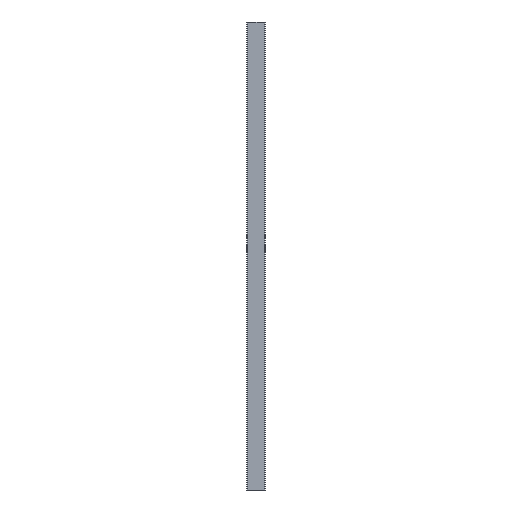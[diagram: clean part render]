
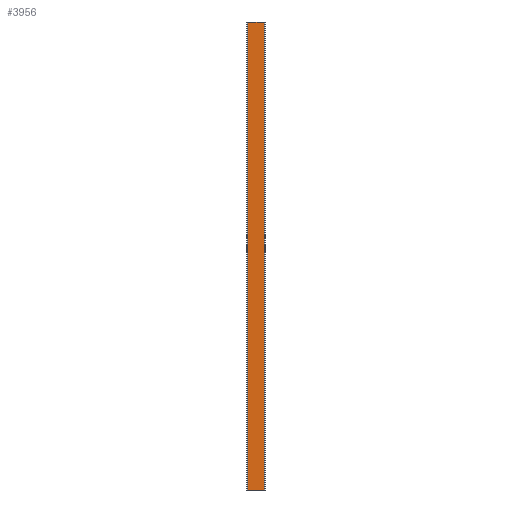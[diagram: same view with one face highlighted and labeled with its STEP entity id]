
A CAD part, left-side view. The second image highlights one B-rep face of the part: STEP entity #3956.
In plain terms, the highlighted planar face has unit normal (-1, 0, 0).
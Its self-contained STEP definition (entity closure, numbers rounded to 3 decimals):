
#4 = DIRECTION ( 'NONE',  ( 0., 1., 0. ) ) ;
#520 = PLANE ( 'NONE',  #7787 ) ;
#1049 = VERTEX_POINT ( 'NONE', #11712 ) ;
#1102 = FACE_OUTER_BOUND ( 'NONE', #10832, .T. ) ;
#1563 = DIRECTION ( 'NONE',  ( 0., 1., 0. ) ) ;
#1578 = CARTESIAN_POINT ( 'NONE',  ( -20., 18., -1000. ) ) ;
#2574 = VERTEX_POINT ( 'NONE', #1578 ) ;
#3059 = ORIENTED_EDGE ( 'NONE', *, *, #9237, .F. ) ;
#3199 = EDGE_CURVE ( 'NONE', #1049, #8438, #4461, .T. ) ;
#3956 = ADVANCED_FACE ( 'NONE', ( #1102 ), #520, .T. ) ;
#4404 = VERTEX_POINT ( 'NONE', #8200 ) ;
#4461 = LINE ( 'NONE', #12270, #12288 ) ;
#4778 = ORIENTED_EDGE ( 'NONE', *, *, #10004, .T. ) ;
#5546 = DIRECTION ( 'NONE',  ( 0., 1., 0. ) ) ;
#5732 = VECTOR ( 'NONE', #12415, 1000. ) ;
#5871 = ORIENTED_EDGE ( 'NONE', *, *, #3199, .T. ) ;
#7164 = LINE ( 'NONE', #12199, #12291 ) ;
#7703 = DIRECTION ( 'NONE',  ( -1., 0., 0. ) ) ;
#7758 = CARTESIAN_POINT ( 'NONE',  ( -20., 18., 0. ) ) ;
#7787 = AXIS2_PLACEMENT_3D ( 'NONE', #8689, #7703, #1563 ) ;
#8200 = CARTESIAN_POINT ( 'NONE',  ( -20., -18., -1000. ) ) ;
#8438 = VERTEX_POINT ( 'NONE', #7758 ) ;
#8689 = CARTESIAN_POINT ( 'NONE',  ( -20., 20., -1000. ) ) ;
#8763 = LINE ( 'NONE', #9346, #5732 ) ;
#8919 = VECTOR ( 'NONE', #5546, 1000. ) ;
#9237 = EDGE_CURVE ( 'NONE', #1049, #4404, #7164, .T. ) ;
#9346 = CARTESIAN_POINT ( 'NONE',  ( -20., 18., -1000. ) ) ;
#10004 = EDGE_CURVE ( 'NONE', #8438, #2574, #8763, .T. ) ;
#10148 = DIRECTION ( 'NONE',  ( 0., 0., -1. ) ) ;
#10177 = EDGE_CURVE ( 'NONE', #4404, #2574, #11949, .T. ) ;
#10832 = EDGE_LOOP ( 'NONE', ( #5871, #4778, #11720, #3059 ) ) ;
#11669 = CARTESIAN_POINT ( 'NONE',  ( -20., 20., -1000. ) ) ;
#11712 = CARTESIAN_POINT ( 'NONE',  ( -20., -18., 0. ) ) ;
#11720 = ORIENTED_EDGE ( 'NONE', *, *, #10177, .F. ) ;
#11949 = LINE ( 'NONE', #11669, #8919 ) ;
#12199 = CARTESIAN_POINT ( 'NONE',  ( -20., -18., -1000. ) ) ;
#12270 = CARTESIAN_POINT ( 'NONE',  ( -20., 20., 0. ) ) ;
#12288 = VECTOR ( 'NONE', #4, 1000. ) ;
#12291 = VECTOR ( 'NONE', #10148, 1000. ) ;
#12415 = DIRECTION ( 'NONE',  ( 0., 0., -1. ) ) ;
